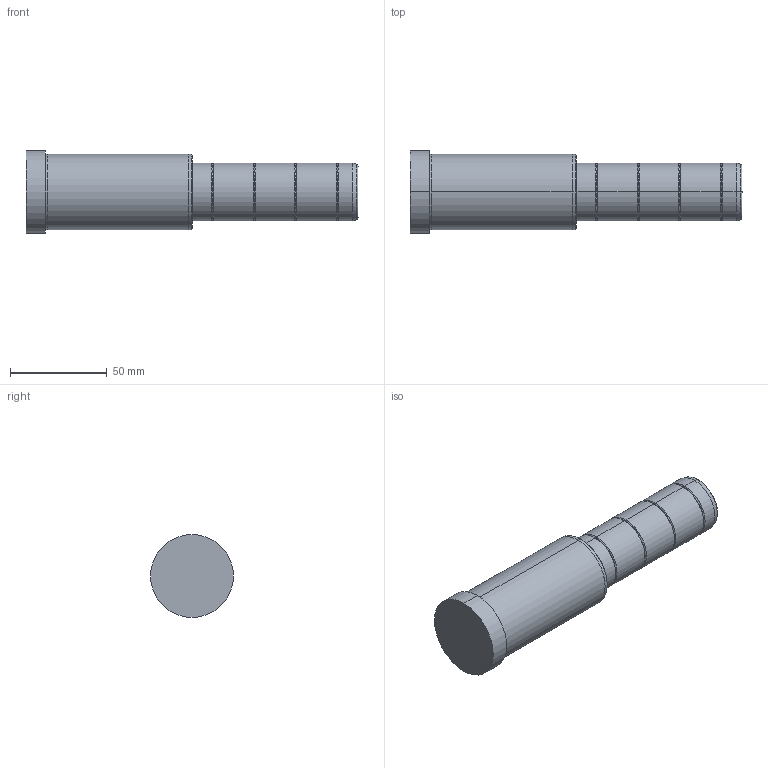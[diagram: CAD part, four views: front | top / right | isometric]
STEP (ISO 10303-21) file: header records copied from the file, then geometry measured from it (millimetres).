
FILE_DESCRIPTION( ( 'STEP AP203' ), '1' );
FILE_NAME( 'C:/Projects/D02 - 30x86x86.step', '2002-12-31T22:43:27', ( ' ' ), ( ' ' ), 'XStep 1.0', ' ', ' ' );
FILE_SCHEMA( ( 'CONFIG_CONTROL_DESIGN' ) );
Length unit declared in the file: metre
Products named in the file (1): 1
Bounding box: 172 x 43 x 43 mm (x, y, z)
Volume: 165912.5 mm3; surface area: 21733.6 mm2
Topology: 1 solids, 1 shells, 48 faces, 94 edges, 52 vertices
Faces by surface type: bspline 26, revolution 22
Entity records: 1523 total; most frequent: CARTESIAN_POINT 617, ORIENTED_EDGE 188, DIRECTION 150, EDGE_CURVE 94, AXIS2_PLACEMENT_3D 53, EDGE_LOOP 52, VERTEX_POINT 52, CIRCLE 52
